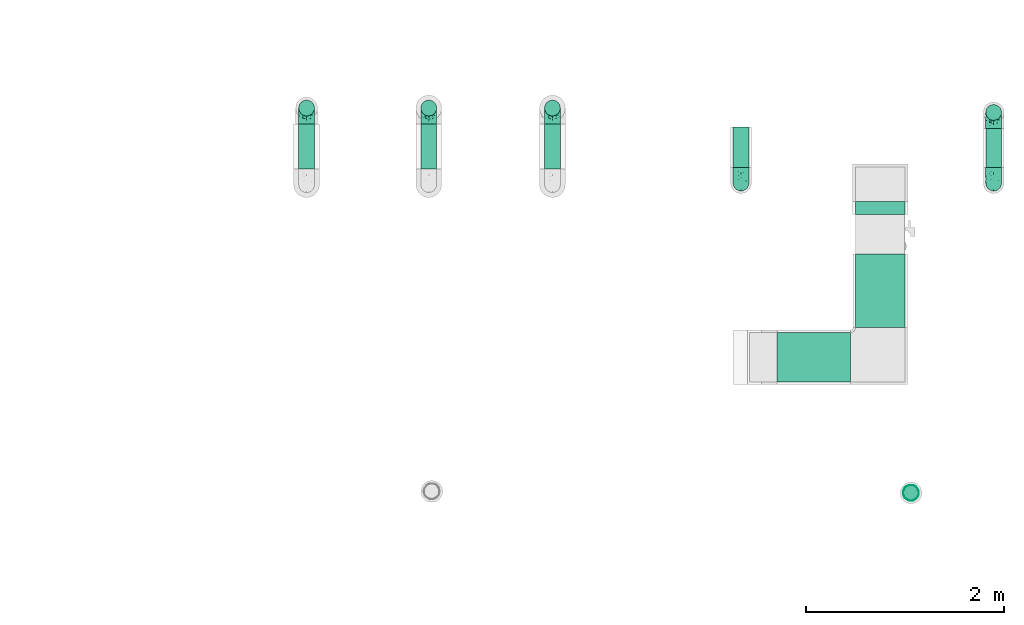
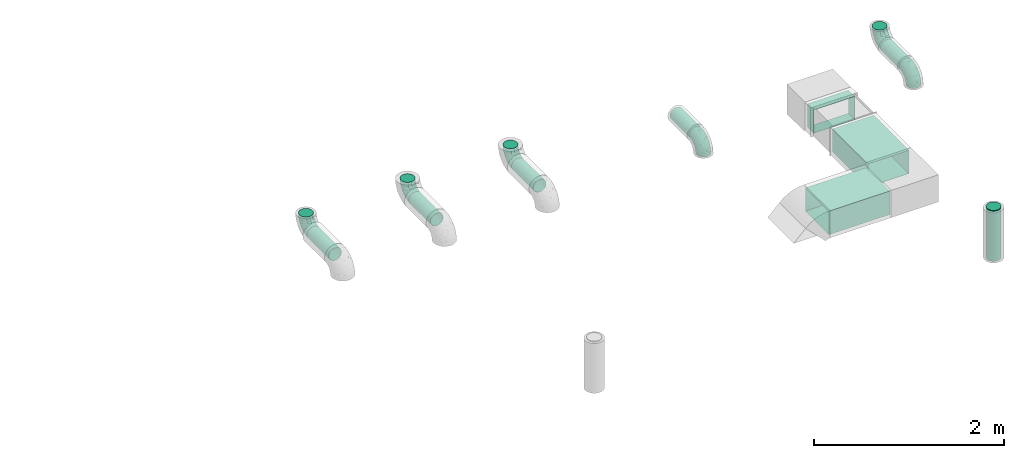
# One storey, part 10 of 14: 9 flow segments, 7 flow fittings.
"""IFC2X3 building model written with IfcOpenShell, lengths in millimetres."""

import ifcopenshell
import ifcopenshell.guid

model = None  # the IFC model being written
_history = None  # IfcOwnerHistory: only IFC2X3 demands one
_inside = {}  # id of a spatial element -> (the spatial element, [elements in it])
_under = {}  # id of a project, library or spatial element -> (it, [spatial elements below it])
_declared = {}  # id of a project -> (the project, [libraries it declares])
_typed = {}  # id of a type object -> (the type object, [elements of that type])
_made_of = {}  # id of a material, layer set ... -> (it, [elements and type objects made of it])


def new_model(schema):
    """Start an empty IFC model of exactly this schema.

    Asked for "IFC4X3", IfcOpenShell would pick the latest addendum, in which some entities
    have other attributes; the version numbers below select the first issue.
    IFC2X3 requires an IfcOwnerHistory on every rooted entity: one is made here for all.
    """
    global model, _history
    if schema == "IFC4X3":
        model = ifcopenshell.file(schema_version=(4, 3, 0, 0))
    else:
        model = ifcopenshell.file(schema=schema)
    _inside.clear()
    _under.clear()
    _declared.clear()
    _typed.clear()
    _made_of.clear()
    _history = None
    if model.schema == "IFC2X3":
        org = make("IfcOrganization", Name="unknown")
        user = make(
            "IfcPersonAndOrganization",
            ThePerson=make("IfcPerson", FamilyName="unknown"),
            TheOrganization=org,
        )
        app = make(
            "IfcApplication",
            ApplicationDeveloper=org,
            Version="unknown",
            ApplicationFullName="unknown",
            ApplicationIdentifier="unknown",
        )
        _history = make(
            "IfcOwnerHistory",
            OwningUser=user,
            OwningApplication=app,
            ChangeAction="ADDED",
            CreationDate=0,
        )
    return model


def make(cls, **values):
    """One entity of the class cls with the attributes given. An attribute that is None is left unset."""
    return model.create_entity(
        cls, **{name: value for name, value in values.items() if value is not None}
    )


def entity(cls, *values):
    """Any entity or typed value of the class cls, its attributes in the order of the schema. None: left unset."""
    e = model.create_entity(cls)
    for i, value in enumerate(values):
        if value is not None:
            e[i] = value
    return e


def rooted(cls, **values):
    """An entity with a GlobalId (a new one), such as an element, a storey or a relation."""
    return make(cls, GlobalId=ifcopenshell.guid.new(), OwnerHistory=_history, **values)


def si_unit(unit_type, name, prefix=None):
    """IfcSIUnit, for example si_unit("LENGTHUNIT", "METRE", prefix="MILLI")."""
    return make("IfcSIUnit", UnitType=unit_type, Prefix=prefix, Name=name)


def converted_unit(unit_type, name, factor, base, dimensions=None, offset=None):
    """IfcConversionBasedUnit, such as the inch: factor (a typed value) times the base unit."""
    return make(
        "IfcConversionBasedUnit"
        if offset is None
        else "IfcConversionBasedUnitWithOffset",
        ConversionOffset=offset,
        Dimensions=None
        if dimensions is None
        else entity("IfcDimensionalExponents", *dimensions),
        UnitType=unit_type,
        Name=name,
        ConversionFactor=make(
            "IfcMeasureWithUnit", ValueComponent=factor, UnitComponent=base
        ),
    )


def derived_unit(unit_type, elements):
    """IfcDerivedUnit: a product of units, each with its exponent."""
    return make(
        "IfcDerivedUnit",
        Elements=[
            make("IfcDerivedUnitElement", Unit=unit, Exponent=power)
            for unit, power in elements
        ],
        UnitType=unit_type,
    )


def assignment(units):
    """IfcUnitAssignment: the units of a project."""
    return None if units is None else make("IfcUnitAssignment", Units=units)


def point(xyz):
    """IfcCartesianPoint."""
    return None if xyz is None else make("IfcCartesianPoint", Coordinates=xyz)


def direction(xyz):
    """IfcDirection."""
    return None if xyz is None else make("IfcDirection", DirectionRatios=xyz)


def frame(location, z_axis=None, x_axis=None):
    """IfcAxis2Placement3D, a coordinate frame: its origin and axes. An axis left out is left unset."""
    return make(
        "IfcAxis2Placement3D",
        Location=point(location),
        Axis=direction(z_axis),
        RefDirection=direction(x_axis),
    )


def frame_2d(location, x_axis=None):
    """IfcAxis2Placement2D, a coordinate frame in the plane: its origin and x axis."""
    return make(
        "IfcAxis2Placement2D", Location=point(location), RefDirection=direction(x_axis)
    )


def origin_with_axes():
    """The frame at (0, 0, 0) with the z axis (0, 0, 1) and the x axis (1, 0, 0) written out."""
    return frame((0.0, 0.0, 0.0), z_axis=(0.0, 0.0, 1.0), x_axis=(1.0, 0.0, 0.0))


def origin_2d_with_axis():
    """The frame at (0, 0) in the plane with the x axis (1, 0) written out."""
    return frame_2d((0.0, 0.0), x_axis=(1.0, 0.0))


def place(relative_to, where):
    """IfcLocalPlacement: puts the frame where relative to a parent placement (None: the world)."""
    return make(
        "IfcLocalPlacement", PlacementRelTo=relative_to, RelativePlacement=where
    )


def context(
    kind, dimensions, precision=None, world=None, true_north=None, identifier=None
):
    """IfcGeometricRepresentationContext, for example the 3D "Model" context."""
    return make(
        "IfcGeometricRepresentationContext",
        ContextIdentifier=identifier,
        ContextType=kind,
        CoordinateSpaceDimension=dimensions,
        Precision=precision,
        WorldCoordinateSystem=world,
        TrueNorth=true_north,
    )


def subcontext(parent, identifier, kind, view, scale=None):
    """IfcGeometricRepresentationSubContext, for example "Body" below "Model"."""
    return make(
        "IfcGeometricRepresentationSubContext",
        ContextIdentifier=identifier,
        ContextType=kind,
        ParentContext=parent,
        TargetScale=scale,
        TargetView=view,
    )


def project(units=None, contexts=None):
    """IfcProject with its units and contexts."""
    return rooted(
        "IfcProject",
        Name="project",
        RepresentationContexts=contexts,
        UnitsInContext=assignment(units),
    )


def spatial(cls, under=None, at=None, **own):
    """A site, building, storey or space (cls), placed at a placement, below another one or the project."""
    s = rooted(cls, ObjectPlacement=at, **own)
    if under is not None:
        _under.setdefault(under.id(), (under, []))[1].append(s)
    return s


def profile(cls, at=None, kind="AREA", **sizes):
    """A parametric profile (cls). Its sizes go by their IFC names, for example OverallWidth=200.0."""
    return make(cls, ProfileType=kind, Position=at, **sizes)


def hollow_rectangle(**sizes):
    """IfcRectangleHollowProfileDef."""
    return profile("IfcRectangleHollowProfileDef", **sizes)


def hollow_circle(**sizes):
    """IfcCircleHollowProfileDef."""
    return profile("IfcCircleHollowProfileDef", **sizes)


def extrude(swept, where, along, depth):
    """IfcExtrudedAreaSolid: the profile swept, set in the frame where, extruded along a direction by depth."""
    return make(
        "IfcExtrudedAreaSolid",
        SweptArea=swept,
        Position=where,
        ExtrudedDirection=direction(along),
        Depth=depth,
    )


def faces_of(points, faces, orient=None, outer=None):
    """IfcFace entities. A face is a list of loops; a loop is a list of indices into points, from 0.

    orient and outer hold one flag for each loop. By default every Orientation is true, the
    first loop of a face is its IfcFaceOuterBound and the others are IfcFaceBound.
    """
    made = []
    for i, loops in enumerate(faces):
        bounds = []
        for j, loop in enumerate(loops):
            is_outer = j == 0 if outer is None else outer[i][j]
            bounds.append(
                make(
                    "IfcFaceOuterBound" if is_outer else "IfcFaceBound",
                    Bound=make("IfcPolyLoop", Polygon=[points[k] for k in loop]),
                    Orientation=True if orient is None else orient[i][j],
                )
            )
        made.append(make("IfcFace", Bounds=bounds))
    return made


def open_shell(faces, orient=None, outer=None):
    """The faces of one IfcOpenShell. surface_model builds it on its shared points."""
    return ("IfcOpenShell", faces, orient, outer)


def surface_model(cls, points, shells):
    """IfcFaceBasedSurfaceModel or IfcShellBasedSurfaceModel (cls): surfaces that need not close."""
    shared = [point(p) for p in points]
    made = [make(c, CfsFaces=faces_of(shared, fs, o, b)) for c, fs, o, b in shells]
    if cls == "IfcFaceBasedSurfaceModel":
        return make(cls, FbsmFaces=made)
    return make(cls, SbsmBoundary=made)


def shape(context_of_items, identifier, shape_type, items):
    """IfcShapeRepresentation: the items that make up one representation, for example the "Body"."""
    return make(
        "IfcShapeRepresentation",
        ContextOfItems=context_of_items,
        RepresentationIdentifier=identifier,
        RepresentationType=shape_type,
        Items=items,
    )


def source(mapping_origin, context_of_items, identifier, shape_type, items):
    """IfcRepresentationMap: a shape defined once, which mapped items show again and again."""
    return make(
        "IfcRepresentationMap",
        MappingOrigin=mapping_origin,
        MappedRepresentation=shape(context_of_items, identifier, shape_type, items),
    )


def transform(
    local_origin,
    x_axis=None,
    y_axis=None,
    z_axis=None,
    scale=None,
    scale2=None,
    scale3=None,
    uniform=True,
):
    """IfcCartesianTransformationOperator3D, or its non-uniform kind. x_axis, y_axis, z_axis: its Axis1, 2, 3."""
    if uniform:
        return make(
            "IfcCartesianTransformationOperator3D",
            Axis1=direction(x_axis),
            Axis2=direction(y_axis),
            LocalOrigin=point(local_origin),
            Scale=scale,
            Axis3=direction(z_axis),
        )
    return make(
        "IfcCartesianTransformationOperator3DnonUniform",
        Axis1=direction(x_axis),
        Axis2=direction(y_axis),
        LocalOrigin=point(local_origin),
        Scale=scale,
        Axis3=direction(z_axis),
        Scale2=scale2,
        Scale3=scale3,
    )


def mapped(mapping_source, mapping_target):
    """IfcMappedItem: shows the shape of a source again, moved by a transform."""
    return make(
        "IfcMappedItem", MappingSource=mapping_source, MappingTarget=mapping_target
    )


def made_of(thing, what):
    """Note that an element or type object is made of a material, layer set ...; save() writes the relation."""
    if what is not None:
        _made_of.setdefault(what.id(), (what, []))[1].append(thing)
    return thing


def type_object(cls, material=None, **own):
    """A type object (cls), such as IfcWallType, which elements share."""
    return made_of(rooted(cls, **own), material)


def element(
    cls,
    number,
    at=None,
    inside=None,
    cuts=None,
    type_object=None,
    material=None,
    context=None,
    identifier="Body",
    shape_type=None,
    held_by="IfcProductDefinitionShape",
    body=None,
    shapes=None,
    **own,
):
    """One element of the class cls, such as IfcWall. Its Tag is "e" and its number.

    at: its placement. inside: the storey or other place that contains it. cuts: it is an
    opening in that element (IfcRelVoidsElement). A single representation is given by context,
    identifier, shape_type and body (its items); several are given by shapes. held_by: the class
    of the entity that holds the representations. save() writes the other relations.
    """
    e = rooted(cls, Tag="e%d" % number, ObjectPlacement=at, **own)
    if body is not None:
        shapes = [shape(context, identifier, shape_type, body)]
    if shapes is not None:
        e.Representation = make(held_by, Representations=shapes)
    if inside is not None:
        _inside.setdefault(inside.id(), (inside, []))[1].append(e)
    if cuts is not None:
        rooted(
            "IfcRelVoidsElement", RelatingBuildingElement=cuts, RelatedOpeningElement=e
        )
    if type_object is not None:
        _typed.setdefault(type_object.id(), (type_object, []))[1].append(e)
    return made_of(e, material)


def aggregate(whole, parts):
    """IfcRelAggregates: a whole, such as a stair, and the parts it consists of."""
    return rooted("IfcRelAggregates", RelatingObject=whole, RelatedObjects=parts)


def save(model, path):
    """Write the relations noted so far, then the file.

    IfcRelAggregates (storeys below a building ...), IfcRelContainedInSpatialStructure (elements
    in a storey), IfcRelDefinesByType, IfcRelAssociatesMaterial and IfcRelDeclares: one each for
    every whole, place, type object, material and project.
    """
    for whole, parts in _under.values():
        aggregate(whole, parts)
    for where, things in _inside.values():
        rooted(
            "IfcRelContainedInSpatialStructure",
            RelatedElements=things,
            RelatingStructure=where,
        )
    for kind, things in _typed.values():
        rooted("IfcRelDefinesByType", RelatedObjects=things, RelatingType=kind)
    for what, things in _made_of.values():
        rooted("IfcRelAssociatesMaterial", RelatedObjects=things, RelatingMaterial=what)
    for by, libraries in _declared.values():
        rooted("IfcRelDeclares", RelatingContext=by, RelatedDefinitions=libraries)
    model.write(path)


model = new_model("IFC2X3")

# Units and contexts
model_context = context("Model", 3, precision=0.01, world=frame((0.0, 4.29681676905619e-09, 0.0)), true_north=direction((4.01073788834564e-13, 1.0)))
plan_context = context("Plan", 3, precision=0.01, world=frame((0.0, 4.29681676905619e-09, 0.0)), true_north=direction((4.01073788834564e-13, 1.0)))
body_context = subcontext(model_context, "Body", "Model", "MODEL_VIEW")
ifc_project = project(units=[converted_unit("PLANEANGLEUNIT", "DEGREE", entity("IfcPositiveLengthMeasure", 0.0174532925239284), si_unit("PLANEANGLEUNIT", "RADIAN"), dimensions=[0, 0, 0, 0, 0, 0, 0]), si_unit("AREAUNIT", "SQUARE_METRE"), si_unit("LENGTHUNIT", "METRE", prefix="MILLI"), si_unit("MASSUNIT", "GRAM", prefix="KILO"), si_unit("POWERUNIT", "WATT"), si_unit("PRESSUREUNIT", "PASCAL", prefix="KILO"), si_unit("FORCEUNIT", "NEWTON", prefix="KILO"), si_unit("ELECTRICVOLTAGEUNIT", "VOLT"), si_unit("ELECTRICCURRENTUNIT", "AMPERE"), si_unit("THERMODYNAMICTEMPERATUREUNIT", "DEGREE_CELSIUS"), si_unit("TIMEUNIT", "SECOND"), si_unit("VOLUMEUNIT", "CUBIC_METRE"), derived_unit("LINEARVELOCITYUNIT", [(si_unit("LENGTHUNIT", "METRE"), 1), (si_unit("TIMEUNIT", "SECOND"), -1)]), derived_unit("VOLUMETRICFLOWRATEUNIT", [(si_unit("VOLUMEUNIT", "CUBIC_METRE"), 1), (si_unit("TIMEUNIT", "SECOND"), -1)]), derived_unit("THERMALTRANSMITTANCEUNIT", [(si_unit("POWERUNIT", "WATT"), 1), (si_unit("THERMODYNAMICTEMPERATUREUNIT", "KELVIN"), -1), (si_unit("AREAUNIT", "SQUARE_METRE"), -1)]), derived_unit("SOUNDPRESSUREUNIT", [(si_unit("PRESSUREUNIT", "PASCAL"), 1)])], contexts=[model_context, plan_context])

# Site, building, storey
site_placement = place(None, frame((0.0, -4.29681676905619e-09, 0.0), z_axis=(0.0, 0.0, 1.0), x_axis=(1.0, 0.0, 0.0)))
site = spatial("IfcSite", under=ifc_project, at=site_placement, CompositionType="ELEMENT")
building_placement = place(site_placement, frame((0.0, 4.29681676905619e-09, 0.0), z_axis=(0.0, 0.0, 1.0), x_axis=(1.0, 0.0, 0.0)))
building = spatial("IfcBuilding", under=site, at=building_placement, Name="mc-building", CompositionType="ELEMENT")
storey_placement = place(building_placement, frame((0.0, 0.0, 205200.0), z_axis=(0.0, 0.0, 1.0), x_axis=(1.0, 0.0, 0.0)))
storey = spatial("IfcBuildingStorey", under=building, at=storey_placement, Name="Nivå D + 1,2 m", CompositionType="ELEMENT", Elevation=205200.0)

# Flow fittings
duct_fitting_type_1 = type_object("IfcDuctFittingType", Name="magicirc_elbow_full_radius_001", PredefinedType="BEND")
shared_shape_1 = source(origin_with_axes(), body_context, "Body", "SurfaceModel", [
    surface_model("IfcShellBasedSurfaceModel", [(-160.0, 0.0, -80.0), (-160.0, -56.56854, -56.56854), (-160.0, 20.70552, -77.27406), (-160.0, 40.0, -69.28203), (-160.0, 56.56854, -56.56854), (-160.0, 77.27406, -20.70552), (-160.0, 69.28203, -40.0), (-160.0, -80.0, 0.0), (-160.0, 69.28203, 40.0), (-160.0, -40.0, -69.28203), (-160.0, -20.70552, -77.27406), (-160.0, -77.27406, -20.70552), (-160.0, -69.28203, -40.0), (-160.0, 80.0, 0.0), (-160.0, 77.27406, 20.70552), (-160.0, 20.70552, 77.27406), (-160.0, 40.0, 69.28203), (-160.0, 56.56854, 56.56854), (-160.0, -56.56854, 56.56854), (-160.0, -77.27406, 20.70552), (-160.0, -69.28203, 40.0), (-160.0, -40.0, 69.28203), (-160.0, -20.70552, 77.27406), (-160.0, 0.0, 80.0), (-56.56854, 160.0, -56.56854), (0.0, 160.0, -80.0), (-20.70552, 160.0, -77.27406), (-40.0, 160.0, -69.28203), (-69.28203, 160.0, -40.0), (-77.27406, 160.0, -20.70552), (80.0, 160.0, 0.0), (-69.28203, 160.0, 40.0), (20.70552, 160.0, -77.27406), (56.56854, 160.0, -56.56854), (40.0, 160.0, -69.28203), (69.28203, 160.0, -40.0), (77.27406, 160.0, -20.70552), (-80.0, 160.0, 0.0), (-77.27406, 160.0, 20.70552), (-20.70552, 160.0, 77.27406), (-40.0, 160.0, 69.28203), (-56.56854, 160.0, 56.56854), (56.56854, 160.0, 56.56854), (69.28203, 160.0, 40.0), (77.27406, 160.0, 20.70552), (20.70552, 160.0, 77.27406), (40.0, 160.0, 69.28203), (0.0, 160.0, 80.0), (-7.67266, -21.79675, 21.05868), (8.63855, -8.63855, 0.0), (17.96443, 2.02525, 17.92911), (-140.16743, -77.7654, 0.0), (-106.59497, -73.9827, 0.0), (29.723, 108.68797, 71.16791), (-113.34063, -71.33168, 25.00935), (-123.58725, -11.32442, 78.55215), (-114.19463, 11.05185, 79.89136), (-120.89343, -62.92105, 44.73211), (-136.99007, 48.21133, 65.545), (-125.7428, 66.03381, 52.93316), (-72.81456, -60.8982, 19.91644), (-77.58343, -53.98906, 39.94873), (-42.50524, -35.90229, 41.43184), (-78.86833, -44.65396, 52.74557), (-108.99664, -47.43106, 59.38038), (-29.52166, 137.08777, 75.11566), (-10.11947, 120.85712, 79.83775), (-127.20537, 76.05333, 38.95505), (-33.44529, 31.50023, 77.36687), (-34.69782, 11.8754, 72.40877), (-3.9576, 41.66922, 71.52512), (26.83187, 21.52362, 33.70108), (11.94711, 15.99749, 47.62133), (4.03845, -4.03845, 34.90131), (-18.64804, 58.23046, 78.73392), (1.70441, 78.44684, 77.16576), (-24.59292, 77.35902, 79.98833), (-125.32148, 30.47275, 75.68771), (-120.22316, -31.11828, 71.8331), (13.78959, 36.02184, 59.49761), (-18.41896, 8.35587, 64.39884), (-132.46869, 81.36377, 22.79543), (-109.35207, 90.31178, 30.75773), (-113.43236, 93.30979, 14.57874), (-10.36245, -27.63956, 0.0), (-36.91073, -42.2953, 22.39915), (-49.76605, 124.95383, 66.59528), (-101.74646, 84.83423, 46.77127), (-83.4551, 69.09578, 68.59861), (-57.8183, 57.8183, 78.48541), (-61.03511, 86.31331, 71.12888), (-80.8816, 133.85749, 22.82614), (11.25, 122.68883, 78.52964), (-88.50247, 50.40579, 74.50178), (-88.28983, 33.35155, 78.68251), (48.70462, 119.33927, 60.25141), (72.29282, 119.98009, 25.83104), (-59.34673, 32.67512, 79.9668), (-85.16996, 17.5912, 79.99524), (-55.81318, 11.32632, 77.0441), (-85.00849, -30.99985, 66.01123), (61.00402, 106.81813, 43.23186), (-63.63219, 104.75463, 63.29969), (-65.20844, 129.34523, 52.48684), (-81.52275, 91.34159, 57.39681), (-80.52734, 120.37798, 36.48088), (-92.79431, 112.52422, 18.97703), (77.7654, 140.16743, 0.0), (45.79804, 48.13306, 29.8135), (39.33304, 28.76653, 14.61158), (-86.08964, 129.38533, 0.0), (-103.43146, 103.43146, 0.0), (38.36592, 71.69521, 55.99832), (-129.38533, 86.08964, 0.0), (-33.86953, 107.56813, 76.49949), (18.04365, 71.78656, 70.01725), (62.2021, 82.62707, 27.05087), (52.38442, 74.10967, 40.32307), (-18.93284, -12.03044, 49.97072), (-81.23144, -65.10761, 0.0), (-55.8679, -56.23253, 0.0), (35.27083, 45.78049, 44.88351), (-100.73084, 72.28591, 58.89814), (-54.51985, -28.62932, 57.01532), (-52.59501, -10.07531, 68.60505), (-46.29588, 82.13982, 76.86014), (-38.63384, 52.61378, 79.97363), (-82.56986, -3.10078, 77.31631), (-108.41978, 53.99493, 68.019), (27.63956, 10.36245, 0.0), (41.93604, 33.11518, 0.0), (54.6063, 56.19906, 15.96171), (65.10761, 81.23144, 0.0), (73.9827, 106.59497, 0.0), (-33.11518, -41.93604, 0.0), (56.23253, 55.8679, 0.0), (-141.1977, 47.96131, -65.17319), (-64.44895, -19.03971, -67.4984), (-103.35167, -28.84014, -70.84909), (-70.80597, -2.08408, -75.9918), (-126.24815, 9.57583, -79.78686), (-92.41851, 111.96589, -21.39074), (-124.421, 30.58775, -75.73032), (-89.68718, 45.45889, -75.79365), (-72.7608, 72.76079, -71.12383), (-50.5252, 60.84727, -79.04915), (-131.39164, 83.13047, -17.86609), (-77.1981, 130.02354, -34.99688), (-109.68436, 96.08636, -14.59494), (-99.17231, 92.66183, -40.04471), (3.27066, -3.27066, -37.05737), (23.87018, 16.11689, -31.6452), (7.48215, -9.43108, -16.69956), (-127.69248, 65.57033, -52.69138), (-129.61888, 77.314, -35.05803), (14.19084, 23.61418, -51.48454), (6.36549, 39.84455, -65.9943), (-25.94451, -2.03239, -62.20998), (-26.59802, 26.59801, -74.69048), (-115.41173, 51.90171, -67.41842), (-118.93035, -72.15419, -25.70176), (-135.39431, -63.9394, -46.23407), (-49.36384, 127.30443, -66.39144), (-31.70102, 117.35326, -76.05932), (32.6897, 37.51953, -41.6191), (-117.97423, -48.56637, -60.13786), (-34.90372, -29.85168, -43.15761), (-38.30539, -41.45281, -26.85807), (-65.92648, -49.3744, -39.5542), (-102.66536, -60.2608, -42.78019), (-62.2887, -34.90476, -55.07246), (72.15419, 118.93035, -25.70176), (60.87615, 76.45775, -24.52708), (60.2608, 102.66536, -42.78019), (-135.79353, -31.90262, -72.68345), (-76.45775, -60.87615, -24.52708), (-16.2755, -23.90667, -31.80484), (41.45281, 38.30539, -26.85807), (29.85056, 15.89181, -16.16732), (10.9954, 119.95821, -78.46006), (-82.01415, 136.57063, -15.05464), (-119.95822, -10.9954, -78.46006), (48.56636, 117.97423, -60.13786), (31.90262, 135.79353, -72.68345), (-9.57583, 126.24814, -79.78686), (63.9394, 135.39431, -46.23407), (49.3744, 65.92648, -39.5542), (-16.01966, -29.80786, -16.69762), (-63.81137, 36.54386, -79.9236), (-30.67208, 51.19767, -79.49125), (-53.65888, 23.04044, -78.87036), (2.08408, 70.80596, -75.9918), (28.84014, 103.35167, -70.84909), (34.90476, 62.2887, -55.07246), (-17.62209, 87.93848, -79.99888), (18.59902, 70.56114, -69.43027), (-95.91193, 73.87581, -60.23528), (-37.74115, 88.00927, -77.92086), (-63.46095, 140.83483, -51.07129), (-68.41389, 95.24352, -64.12485), (-51.13608, 97.13293, -72.27976), (-83.6892, 93.72418, -54.10776), (-87.93848, 17.62208, -79.99888), (-43.59797, 2.06669, -71.34384), (-69.04822, 115.75437, -54.18349), (-8.80879, -2.12536, -50.94302)], [open_shell([[[0, 1, 2]], [[3, 2, 4]], [[5, 6, 4]], [[4, 2, 1]], [[4, 7, 8]], [[9, 1, 10]], [[1, 0, 10]], [[11, 7, 12]], [[1, 12, 7]], [[1, 7, 4]], [[13, 5, 4]], [[8, 14, 13]], [[7, 15, 8]], [[8, 15, 16]], [[17, 8, 16]], [[18, 15, 7]], [[19, 20, 7]], [[7, 20, 18]], [[21, 22, 18]], [[22, 15, 18]], [[15, 22, 23]], [[8, 13, 4]], [[24, 25, 26]], [[24, 26, 27]], [[24, 28, 29]], [[25, 24, 30]], [[31, 30, 24]], [[32, 33, 34]], [[32, 25, 33]], [[35, 30, 36]], [[30, 35, 33]], [[25, 30, 33]], [[24, 29, 37]], [[37, 38, 31]], [[31, 39, 30]], [[40, 39, 31]], [[40, 31, 41]], [[30, 39, 42]], [[30, 43, 44]], [[42, 43, 30]], [[42, 45, 46]], [[42, 39, 45]], [[47, 45, 39]], [[24, 37, 31]], [[48, 49, 50]], [[51, 52, 19]], [[53, 46, 45]], [[54, 20, 19]], [[54, 19, 52]], [[23, 55, 56]], [[20, 57, 18]], [[17, 58, 59]], [[54, 60, 61]], [[62, 63, 61]], [[64, 18, 57]], [[39, 65, 66]], [[8, 59, 67]], [[68, 69, 70]], [[71, 72, 73]], [[22, 55, 23]], [[74, 75, 76]], [[16, 15, 77]], [[21, 64, 78]], [[79, 70, 80]], [[77, 15, 56]], [[59, 8, 17]], [[81, 13, 14]], [[81, 82, 83]], [[84, 48, 85]], [[40, 41, 86]], [[82, 67, 87]], [[88, 89, 90]], [[17, 16, 58]], [[23, 56, 15]], [[64, 21, 18]], [[31, 38, 91]], [[47, 92, 45]], [[93, 77, 94]], [[42, 46, 95]], [[44, 43, 96]], [[97, 98, 99]], [[47, 39, 66]], [[64, 100, 78]], [[96, 43, 101]], [[66, 92, 47]], [[95, 46, 53]], [[102, 103, 104]], [[87, 105, 82]], [[82, 105, 106]], [[96, 107, 44]], [[91, 106, 105]], [[21, 78, 22]], [[108, 71, 109]], [[37, 110, 91]], [[91, 110, 106]], [[106, 111, 83]], [[42, 101, 43]], [[111, 106, 110]], [[95, 112, 101]], [[103, 86, 41]], [[83, 111, 113]], [[90, 114, 86]], [[79, 115, 70]], [[116, 117, 108]], [[75, 70, 115]], [[86, 114, 65]], [[65, 39, 40]], [[72, 118, 73]], [[64, 57, 63]], [[116, 96, 101]], [[119, 120, 60]], [[66, 76, 75]], [[57, 54, 61]], [[121, 108, 117]], [[50, 109, 71]], [[87, 122, 104]], [[81, 67, 82]], [[41, 31, 103]], [[90, 102, 104]], [[76, 66, 114]], [[92, 75, 53]], [[62, 118, 123]], [[123, 124, 100]], [[104, 122, 88]], [[125, 114, 90]], [[125, 76, 114]], [[89, 94, 97]], [[126, 89, 97]], [[99, 124, 69]], [[117, 116, 101]], [[86, 65, 40]], [[112, 95, 53]], [[101, 42, 95]], [[64, 63, 100]], [[55, 78, 127]], [[94, 77, 56]], [[58, 77, 128]], [[54, 57, 20]], [[57, 61, 63]], [[113, 13, 81]], [[106, 83, 82]], [[31, 105, 103]], [[104, 103, 105]], [[75, 92, 66]], [[53, 45, 92]], [[78, 55, 22]], [[56, 55, 127]], [[94, 98, 97]], [[89, 88, 93]], [[113, 81, 83]], [[67, 14, 8]], [[67, 81, 14]], [[59, 122, 87]], [[59, 87, 67]], [[105, 87, 104]], [[94, 56, 98]], [[68, 74, 126]], [[109, 129, 130]], [[73, 118, 62]], [[59, 128, 122]], [[88, 122, 128]], [[88, 128, 93]], [[104, 88, 90]], [[77, 93, 128]], [[89, 93, 94]], [[109, 131, 108]], [[96, 132, 133]], [[124, 123, 80]], [[127, 78, 100]], [[69, 124, 80]], [[127, 100, 124]], [[101, 112, 117]], [[121, 117, 112]], [[79, 121, 112]], [[71, 108, 121]], [[53, 75, 115]], [[123, 118, 80]], [[72, 121, 79]], [[50, 71, 73]], [[50, 73, 48]], [[50, 129, 109]], [[121, 72, 71]], [[80, 72, 79]], [[80, 118, 72]], [[63, 62, 123]], [[79, 112, 115]], [[74, 70, 75]], [[61, 85, 62]], [[62, 85, 48]], [[62, 48, 73]], [[85, 120, 134]], [[131, 130, 135]], [[130, 131, 109]], [[131, 135, 132]], [[116, 108, 131]], [[132, 96, 116]], [[131, 132, 116]], [[112, 53, 115]], [[70, 69, 80]], [[99, 69, 68]], [[97, 99, 68]], [[124, 99, 127]], [[77, 58, 16]], [[59, 58, 128]], [[19, 7, 51]], [[107, 96, 133]], [[107, 30, 44]], [[66, 65, 114]], [[31, 91, 105]], [[91, 38, 37]], [[85, 60, 120]], [[54, 52, 119]], [[100, 63, 123]], [[90, 86, 102]], [[103, 102, 86]], [[90, 89, 125]], [[76, 125, 89]], [[126, 74, 76]], [[70, 74, 68]], [[89, 126, 76]], [[68, 126, 97]], [[56, 127, 98]], [[99, 98, 127]], [[49, 48, 84]], [[134, 84, 85]], [[49, 129, 50]], [[61, 60, 85]], [[119, 60, 54]], [[3, 4, 136]], [[137, 138, 139]], [[0, 2, 140]], [[110, 141, 111]], [[142, 2, 3]], [[143, 144, 145]], [[113, 146, 13]], [[147, 29, 28]], [[148, 149, 146]], [[150, 151, 152]], [[153, 6, 154]], [[150, 155, 151]], [[156, 157, 158]], [[136, 153, 159]], [[160, 12, 161]], [[162, 27, 163]], [[160, 51, 11]], [[151, 155, 164]], [[165, 1, 9]], [[166, 167, 168]], [[169, 165, 170]], [[35, 36, 171]], [[171, 172, 173]], [[160, 11, 12]], [[9, 174, 165]], [[160, 175, 119]], [[166, 176, 167]], [[9, 10, 174]], [[175, 168, 167]], [[177, 130, 178]], [[148, 111, 141]], [[175, 160, 169]], [[146, 149, 154]], [[32, 179, 25]], [[29, 180, 37]], [[3, 136, 142]], [[138, 181, 139]], [[180, 147, 141]], [[149, 141, 147]], [[33, 182, 34]], [[183, 179, 32]], [[26, 184, 163]], [[185, 33, 35]], [[184, 26, 25]], [[1, 161, 12]], [[24, 27, 162]], [[26, 163, 27]], [[32, 34, 183]], [[177, 186, 172]], [[187, 134, 167]], [[188, 189, 190]], [[191, 156, 158]], [[183, 182, 192]], [[174, 181, 138]], [[192, 182, 193]], [[181, 10, 0]], [[171, 107, 133]], [[159, 143, 142]], [[4, 6, 153]], [[171, 173, 185]], [[110, 180, 141]], [[194, 179, 191]], [[156, 191, 195]], [[159, 153, 196]], [[197, 145, 144]], [[28, 24, 198]], [[199, 162, 200]], [[199, 196, 201]], [[172, 186, 173]], [[185, 182, 33]], [[193, 182, 173]], [[191, 179, 192]], [[184, 179, 194]], [[195, 193, 156]], [[189, 191, 158]], [[171, 36, 107]], [[171, 132, 172]], [[170, 165, 138]], [[161, 165, 169]], [[140, 181, 0]], [[139, 181, 202]], [[158, 190, 189]], [[203, 137, 139]], [[168, 175, 169]], [[36, 30, 107]], [[154, 6, 5]], [[159, 196, 144]], [[143, 159, 144]], [[140, 142, 202]], [[200, 162, 163]], [[198, 162, 204]], [[146, 154, 5]], [[149, 153, 154]], [[198, 147, 28]], [[147, 204, 201]], [[175, 120, 119]], [[169, 170, 168]], [[143, 188, 202]], [[119, 52, 160]], [[142, 140, 2]], [[181, 140, 202]], [[179, 184, 25]], [[163, 184, 194]], [[153, 149, 196]], [[199, 201, 204]], [[197, 144, 200]], [[202, 142, 143]], [[189, 145, 194]], [[143, 145, 188]], [[193, 155, 156]], [[166, 157, 205]], [[157, 156, 155]], [[137, 170, 138]], [[200, 163, 197]], [[199, 200, 144]], [[196, 199, 144]], [[162, 199, 204]], [[196, 149, 201]], [[147, 201, 149]], [[193, 186, 164]], [[205, 155, 150]], [[163, 194, 197]], [[194, 145, 197]], [[13, 146, 5]], [[113, 111, 148]], [[164, 186, 177]], [[193, 173, 186]], [[164, 177, 151]], [[193, 164, 155]], [[177, 178, 151]], [[152, 129, 49]], [[152, 151, 178]], [[176, 187, 167]], [[172, 135, 177]], [[130, 177, 135]], [[130, 129, 178]], [[166, 168, 170]], [[157, 166, 170]], [[176, 166, 150]], [[191, 189, 194]], [[203, 190, 158]], [[139, 202, 190]], [[188, 190, 202]], [[150, 152, 176]], [[187, 176, 152]], [[152, 84, 187]], [[134, 120, 167]], [[187, 84, 134]], [[120, 175, 167]], [[189, 188, 145]], [[51, 160, 52]], [[51, 7, 11]], [[182, 183, 34]], [[179, 183, 192]], [[171, 185, 35]], [[182, 185, 173]], [[181, 174, 10]], [[165, 174, 138]], [[165, 161, 1]], [[160, 161, 169]], [[37, 180, 110]], [[147, 180, 29]], [[162, 198, 24]], [[147, 198, 204]], [[153, 136, 4]], [[142, 136, 159]], [[139, 190, 203]], [[157, 170, 137]], [[158, 157, 203]], [[157, 137, 203]], [[132, 171, 133]], [[132, 135, 172]], [[191, 192, 195]], [[193, 195, 192]], [[166, 205, 150]], [[157, 155, 205]], [[149, 148, 141]], [[113, 148, 146]], [[129, 152, 178]], [[49, 84, 152]]])]),
])
for number, where, z_axis, x_axis, name in (
    (1, (348291.86984, 465911.0, 4050.0), (1.0, 0.0, 0.0), (0.0, 1.0, 0.0), "magicirc_elbow_full_radius_001"),
    (2, (341336.70568, 465956.0, 4052.5), (1.0, 0.0, 0.0), (0.0, 1.0, 0.0), "magicirc_elbow_full_radius_001"),
    (3, (342573.81048, 465956.0, 4065.0), (1.0, 0.0, 0.0), (0.0, 1.0, 0.0), "magicirc_elbow_full_radius_001"),
    (4, (343825.73195, 465956.0, 4060.0), (1.0, 0.0, 0.0), (0.0, 1.0, 0.0), "magicirc_elbow_full_radius_001"),
    (5, (345734.4963, 465196.0, 4065.0), (1.0, 0.0, 0.0), (0.0, -1.0, 0.0), "magicirc_elbow_full_radius_001"),
    (6, (348291.86984, 465196.0, 4050.0), (1.0, 0.0, 0.0), (0.0, -1.0, 0.0), "magicirc_elbow_full_radius_001"),
):
    element("IfcFlowFitting", number, at=place(storey_placement, frame(where, z_axis=z_axis, x_axis=x_axis)), inside=storey, type_object=duct_fitting_type_1, Name=name, context=body_context, shape_type="MappedRepresentation", body=[
        mapped(shared_shape_1, transform((0.0, 0.0, 0.0), scale=1.0)),
    ])
duct_fitting_type_2 = type_object("IfcDuctFittingType", Name="magicirc_joint_001", PredefinedType="CONNECTOR")
shared_shape_2 = source(origin_with_axes(), body_context, "Body", "SurfaceModel", [
    surface_model("IfcShellBasedSurfaceModel", [(0.0, 40.0, -69.28203), (0.0, 20.70552, -77.27406), (0.0, 0.0, -80.0), (0.0, -56.56854, -56.56854), (0.0, 77.27406, -20.70552), (0.0, 69.28203, -40.0), (0.0, 56.56854, -56.56854), (0.0, 77.27406, 20.70552), (0.0, -20.70552, -77.27406), (0.0, -40.0, -69.28203), (0.0, -69.28203, -40.0), (0.0, -77.27406, -20.70552), (0.0, -80.0, 0.0), (0.0, 80.0, 0.0), (0.0, -69.28203, 40.0), (0.0, 69.28203, 40.0), (0.0, 40.0, 69.28203), (0.0, 20.70552, 77.27406), (0.0, 56.56854, 56.56854), (0.0, -56.56854, 56.56854), (0.0, -77.27406, 20.70552), (0.0, -20.70552, 77.27406), (0.0, 0.0, 80.0), (0.0, -40.0, 69.28203), (10.0, 0.0, -80.0), (10.0, 20.70552, -77.27406), (10.0, 40.0, -69.28203), (10.0, -56.56854, -56.56854), (10.0, 56.56854, -56.56854), (10.0, 69.28203, -40.0), (10.0, 77.27406, -20.70552), (10.0, -40.0, -69.28203), (10.0, -20.70552, -77.27406), (10.0, -69.28203, -40.0), (10.0, -80.0, 0.0), (10.0, -77.27406, -20.70552), (10.0, 77.27406, 20.70552), (10.0, -69.28203, 40.0), (10.0, 40.0, 69.28203), (10.0, 69.28203, 40.0), (10.0, 20.70552, 77.27406), (10.0, 56.56854, 56.56854), (10.0, -56.56854, 56.56854), (10.0, -77.27406, 20.70552), (10.0, -40.0, 69.28203), (10.0, 0.0, 80.0), (10.0, -20.70552, 77.27406), (10.0, 80.0, 0.0)], [open_shell([[[0, 1, 2]], [[0, 2, 3]], [[4, 5, 6]], [[6, 0, 3]], [[6, 3, 7]], [[8, 9, 2]], [[9, 3, 2]], [[10, 11, 3]], [[12, 3, 11]], [[12, 7, 3]], [[4, 6, 13]], [[7, 12, 14]], [[15, 7, 16]], [[7, 17, 16]], [[18, 15, 16]], [[17, 7, 14]], [[14, 19, 17]], [[14, 12, 20]], [[21, 22, 23]], [[19, 23, 17]], [[23, 22, 17]], [[7, 13, 6]], [[24, 25, 26]], [[27, 24, 26]], [[28, 29, 30]], [[27, 26, 28]], [[27, 28, 30]], [[24, 31, 32]], [[24, 27, 31]], [[33, 34, 35]], [[34, 33, 27]], [[30, 34, 27]], [[30, 36, 34]], [[34, 36, 37]], [[38, 36, 39]], [[38, 40, 36]], [[38, 39, 41]], [[37, 36, 40]], [[40, 42, 37]], [[43, 34, 37]], [[44, 45, 46]], [[40, 44, 42]], [[40, 45, 44]], [[36, 30, 47]], [[43, 12, 34]], [[37, 20, 43]], [[19, 42, 44]], [[37, 42, 14]], [[23, 44, 46]], [[37, 14, 20]], [[20, 12, 43]], [[21, 45, 22]], [[21, 23, 46]], [[19, 44, 23]], [[19, 14, 42]], [[45, 21, 46]], [[38, 17, 40]], [[41, 16, 38]], [[15, 39, 36]], [[41, 39, 18]], [[7, 36, 47]], [[38, 16, 17]], [[17, 22, 40]], [[7, 15, 36]], [[18, 39, 15]], [[18, 16, 41]], [[13, 7, 47]], [[40, 22, 45]], [[30, 13, 47]], [[29, 4, 30]], [[6, 28, 26]], [[29, 28, 5]], [[0, 26, 25]], [[29, 5, 4]], [[4, 13, 30]], [[1, 24, 2]], [[1, 0, 25]], [[6, 26, 0]], [[6, 5, 28]], [[24, 1, 25]], [[31, 8, 32]], [[27, 9, 31]], [[35, 34, 12]], [[27, 33, 3]], [[33, 35, 10]], [[31, 9, 8]], [[8, 2, 32]], [[11, 10, 35]], [[3, 33, 10]], [[3, 9, 27]], [[12, 11, 35]], [[32, 2, 24]]])]),
])
flow_fitting_placement = place(storey_placement, frame((347455.32437, 462060.0, 4516.87568999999), z_axis=(0.0, -1.0, 0.0), x_axis=(0.0, 0.0, -1.0)))
element("IfcFlowFitting", 7, at=flow_fitting_placement, inside=storey, type_object=duct_fitting_type_2, Name="magicirc_joint_001", context=body_context, shape_type="MappedRepresentation", body=[
    mapped(shared_shape_2, transform((0.0, 0.0, 0.0), scale=1.0)),
])

# Flow segments
duct_segment_type_1 = type_object("IfcDuctSegmentType", Name="1-REKT", PredefinedType="RIGIDSEGMENT")
shared_shape_3 = source(origin_with_axes(), body_context, "Body", "SweptSolid", [
    extrude(hollow_rectangle(XDim=500.0, YDim=300.0, WallThickness=2.0, at=origin_2d_with_axis()), frame((0.0, 0.0, 0.0), z_axis=(1.0, 0.0, 0.0), x_axis=(0.0, 1.0, 0.0)), (0.0, 0.0, 1.0), 740.3),
])
flow_segment_1_placement = place(storey_placement, frame((346841.5, 463433.0, 4092.5), z_axis=(0.0, 0.0, 1.0), x_axis=(-1.0, 0.0, 0.0)))
element("IfcFlowSegment", 8, at=flow_segment_1_placement, inside=storey, type_object=duct_segment_type_1, Name="1-REKT", context=body_context, shape_type="MappedRepresentation", body=[
    mapped(shared_shape_3, transform((0.0, 0.0, 0.0), scale=1.0)),
])
shared_shape_4 = source(origin_with_axes(), body_context, "Body", "SweptSolid", [
    extrude(hollow_rectangle(XDim=500.0, YDim=300.0, WallThickness=2.0, at=origin_2d_with_axis()), frame((0.0, 0.0, 0.0), z_axis=(1.0, 0.0, 0.0), x_axis=(0.0, 1.0, 0.0)), (0.0, 0.0, 1.0), 132.5),
])
flow_segment_2_placement = place(storey_placement, frame((347143.0, 464877.00001, 4092.5), z_axis=(0.0, 0.0, 1.0), x_axis=(0.0, 1.0, 0.0)))
element("IfcFlowSegment", 9, at=flow_segment_2_placement, inside=storey, type_object=duct_segment_type_1, Name="1-REKT", context=body_context, shape_type="MappedRepresentation", body=[
    mapped(shared_shape_4, transform((0.0, 0.0, 0.0), scale=1.0)),
])
shared_shape_5 = source(origin_with_axes(), body_context, "Body", "SweptSolid", [
    extrude(hollow_rectangle(XDim=500.0, YDim=300.0, WallThickness=2.0, at=origin_2d_with_axis()), frame((0.0, 0.0, 0.0), z_axis=(1.0, 0.0, 0.0), x_axis=(0.0, 1.0, 0.0)), (0.0, 0.0, 1.0), 742.5),
])
flow_segment_3_placement = place(storey_placement, frame((347143.0, 464476.99999, 4092.5), z_axis=(0.0, 0.0, 1.0), x_axis=(0.0, -1.0, 0.0)))
element("IfcFlowSegment", 10, at=flow_segment_3_placement, inside=storey, type_object=duct_segment_type_1, Name="1-REKT", context=body_context, shape_type="MappedRepresentation", body=[
    mapped(shared_shape_5, transform((0.0, 0.0, 0.0), scale=1.0)),
])
duct_segment_type_2 = type_object("IfcDuctSegmentType", Name="2 - Spiro kanaler, Forsinket stål", PredefinedType="RIGIDSEGMENT")
shared_shape_6 = source(origin_with_axes(), body_context, "Body", "SweptSolid", [
    extrude(hollow_circle(Radius=80.0, WallThickness=2.0, at=origin_2d_with_axis()), frame((0.0, 0.0, 0.0), z_axis=(1.0, 0.0, 0.0), x_axis=(0.0, 1.0, 0.0)), (0.0, 0.0, 1.0), 644.4),
])
flow_segment_4_placement = place(storey_placement, frame((347455.32437, 462060.0, 4506.87568999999), z_axis=(0.0, -1.0, 0.0), x_axis=(0.0, 0.0, -1.0)))
element("IfcFlowSegment", 11, at=flow_segment_4_placement, inside=storey, type_object=duct_segment_type_2, Name="2 - Spiro kanaler, Forsinket stål", context=body_context, shape_type="MappedRepresentation", body=[
    mapped(shared_shape_6, transform((0.0, 0.0, 0.0), scale=1.0)),
])
shared_shape_7 = source(origin_with_axes(), body_context, "Body", "SweptSolid", [
    extrude(hollow_circle(Radius=80.0, WallThickness=2.0, at=origin_2d_with_axis()), frame((0.0, 0.0, 0.0), z_axis=(1.0, 0.0, 0.0), x_axis=(0.0, 1.0, 0.0)), (0.0, 0.0, 1.0), 455.0),
])
for number, where, z_axis, x_axis in (
    (12, (341336.70568, 465796.0, 4052.5), (0.0, 0.0, 1.0), (0.0, -1.0, 0.0)),
    (13, (342573.81048, 465796.0, 4065.0), (0.0, 0.0, 1.0), (0.0, -1.0, 0.0)),
    (14, (343825.73195, 465796.0, 4060.0), (0.0, 0.0, 1.0), (0.0, -1.0, 0.0)),
):
    element("IfcFlowSegment", number, at=place(storey_placement, frame(where, z_axis=z_axis, x_axis=x_axis)), inside=storey, type_object=duct_segment_type_2, Name="2 - Spiro kanaler, Forsinket stål", context=body_context, shape_type="MappedRepresentation", body=[
        mapped(shared_shape_7, transform((0.0, 0.0, 0.0), scale=1.0)),
    ])
shared_shape_8 = source(origin_with_axes(), body_context, "Body", "SweptSolid", [
    extrude(hollow_circle(Radius=80.0, WallThickness=2.0, at=origin_2d_with_axis()), frame((0.0, 0.0, 0.0), z_axis=(1.0, 0.0, 0.0), x_axis=(0.0, 1.0, 0.0)), (0.0, 0.0, 1.0), 410.0),
])
flow_segment_5_placement = place(storey_placement, frame((345734.4963, 465766.0, 4065.0), z_axis=(0.0, 0.0, 1.0), x_axis=(0.0, -1.0, 0.0)))
element("IfcFlowSegment", 15, at=flow_segment_5_placement, inside=storey, type_object=duct_segment_type_2, Name="2 - Spiro kanaler, Forsinket stål", context=body_context, shape_type="MappedRepresentation", body=[
    mapped(shared_shape_8, transform((0.0, 0.0, 0.0), scale=1.0)),
])
shared_shape_9 = source(origin_with_axes(), body_context, "Body", "SweptSolid", [
    extrude(hollow_circle(Radius=80.0, WallThickness=2.0, at=origin_2d_with_axis()), frame((0.0, 0.0, 0.0), z_axis=(1.0, 0.0, 0.0), x_axis=(0.0, 1.0, 0.0)), (0.0, 0.0, 1.0), 395.0),
])
flow_segment_6_placement = place(storey_placement, frame((348291.86984, 465751.0, 4050.0), z_axis=(0.0, 0.0, 1.0), x_axis=(0.0, -1.0, 0.0)))
element("IfcFlowSegment", 16, at=flow_segment_6_placement, inside=storey, type_object=duct_segment_type_2, Name="2 - Spiro kanaler, Forsinket stål", context=body_context, shape_type="MappedRepresentation", body=[
    mapped(shared_shape_9, transform((0.0, 0.0, 0.0), scale=1.0)),
])

save(model, "model.ifc")
